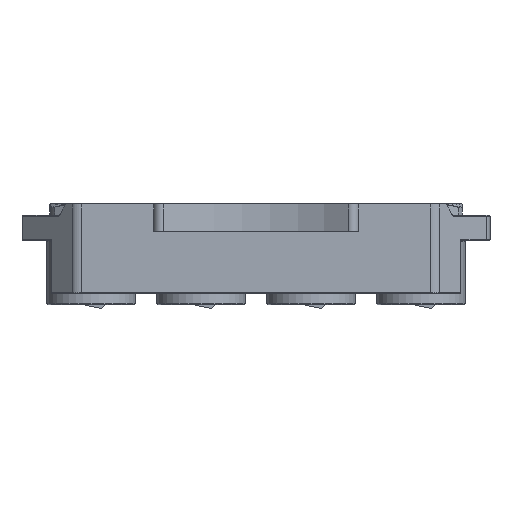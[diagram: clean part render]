
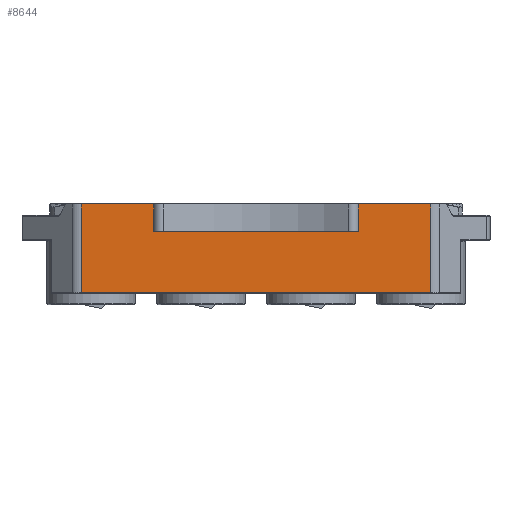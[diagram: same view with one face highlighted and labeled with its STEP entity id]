
A CAD part, front view. The second image highlights one B-rep face of the part: STEP entity #8644.
In plain terms, the highlighted planar face has unit normal (0, -1, 0).
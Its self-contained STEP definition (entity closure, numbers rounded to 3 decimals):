
#8644=ADVANCED_FACE('',(#10423),#9912,.T.);
#9912=PLANE('',#26747);
#10423=FACE_OUTER_BOUND('',#11636,.T.);
#11636=EDGE_LOOP('',(#13120,#13121,#13122,#13123,#13124,#13125,#13126,#13127,
#13128,#13129));
#13120=ORIENTED_EDGE('',*,*,#20943,.T.);
#13121=ORIENTED_EDGE('',*,*,#20944,.T.);
#13122=ORIENTED_EDGE('',*,*,#20945,.F.);
#13123=ORIENTED_EDGE('',*,*,#20946,.T.);
#13124=ORIENTED_EDGE('',*,*,#20947,.T.);
#13125=ORIENTED_EDGE('',*,*,#20948,.T.);
#13126=ORIENTED_EDGE('',*,*,#20949,.T.);
#13127=ORIENTED_EDGE('',*,*,#20950,.T.);
#13128=ORIENTED_EDGE('',*,*,#20951,.T.);
#13129=ORIENTED_EDGE('',*,*,#20952,.T.);
#19158=VERTEX_POINT('',#35858);
#19159=VERTEX_POINT('',#35859);
#19160=VERTEX_POINT('',#35861);
#19161=VERTEX_POINT('',#35863);
#19162=VERTEX_POINT('',#35865);
#19163=VERTEX_POINT('',#35867);
#19164=VERTEX_POINT('',#35869);
#19165=VERTEX_POINT('',#35871);
#19166=VERTEX_POINT('',#35873);
#19167=VERTEX_POINT('',#35875);
#20943=EDGE_CURVE('',#19158,#19159,#23949,.T.);
#20944=EDGE_CURVE('',#19159,#19160,#23950,.T.);
#20945=EDGE_CURVE('',#19161,#19160,#23951,.T.);
#20946=EDGE_CURVE('',#19161,#19162,#23952,.T.);
#20947=EDGE_CURVE('',#19162,#19163,#23953,.T.);
#20948=EDGE_CURVE('',#19163,#19164,#23954,.T.);
#20949=EDGE_CURVE('',#19164,#19165,#23955,.T.);
#20950=EDGE_CURVE('',#19165,#19166,#23956,.T.);
#20951=EDGE_CURVE('',#19166,#19167,#23957,.T.);
#20952=EDGE_CURVE('',#19167,#19158,#23958,.T.);
#23949=LINE('',#35857,#25377);
#23950=LINE('',#35860,#25378);
#23951=LINE('',#35862,#25379);
#23952=LINE('',#35864,#25380);
#23953=LINE('',#35866,#25381);
#23954=LINE('',#35868,#25382);
#23955=LINE('',#35870,#25383);
#23956=LINE('',#35872,#25384);
#23957=LINE('',#35874,#25385);
#23958=LINE('',#35876,#25386);
#25377=VECTOR('',#29396,1.);
#25378=VECTOR('',#29397,1.);
#25379=VECTOR('',#29398,1.);
#25380=VECTOR('',#29399,1.);
#25381=VECTOR('',#29400,1.);
#25382=VECTOR('',#29401,1.);
#25383=VECTOR('',#29402,1.);
#25384=VECTOR('',#29403,1.);
#25385=VECTOR('',#29404,1.);
#25386=VECTOR('',#29405,1.);
#26747=AXIS2_PLACEMENT_3D('',#35877,#29406,#29407);
#29396=DIRECTION('',(0.,0.,1.));
#29397=DIRECTION('',(-1.,0.,0.));
#29398=DIRECTION('',(0.,0.,1.));
#29399=DIRECTION('',(-0.707,0.,-0.707));
#29400=DIRECTION('',(-1.,0.,0.));
#29401=DIRECTION('',(-0.707,0.,0.707));
#29402=DIRECTION('',(0.,0.,1.));
#29403=DIRECTION('',(-1.,0.,0.));
#29404=DIRECTION('',(0.,0.,-1.));
#29405=DIRECTION('',(1.,0.,0.));
#29406=DIRECTION('',(0.,-1.,0.));
#29407=DIRECTION('',(0.,0.,1.));
#35857=CARTESIAN_POINT('',(81.015,-30.,0.));
#35858=CARTESIAN_POINT('',(81.015,-30.,-41.3));
#35859=CARTESIAN_POINT('',(81.015,-30.,-0.2));
#35860=CARTESIAN_POINT('',(-108.5,-30.,-0.2));
#35861=CARTESIAN_POINT('',(47.5,-30.,-0.2));
#35862=CARTESIAN_POINT('',(47.5,-30.,-13.));
#35863=CARTESIAN_POINT('',(47.5,-30.,-12.8));
#35864=CARTESIAN_POINT('',(47.5,-30.,-12.8));
#35865=CARTESIAN_POINT('',(47.3,-30.,-13.));
#35866=CARTESIAN_POINT('',(-47.5,-30.,-13.));
#35867=CARTESIAN_POINT('',(-47.3,-30.,-13.));
#35868=CARTESIAN_POINT('',(-47.5,-30.,-12.8));
#35869=CARTESIAN_POINT('',(-47.5,-30.,-12.8));
#35870=CARTESIAN_POINT('',(-47.5,-30.,-13.));
#35871=CARTESIAN_POINT('',(-47.5,-30.,-0.2));
#35872=CARTESIAN_POINT('',(-108.5,-30.,-0.2));
#35873=CARTESIAN_POINT('',(-81.015,-30.,-0.2));
#35874=CARTESIAN_POINT('',(-81.015,-30.,-41.6));
#35875=CARTESIAN_POINT('',(-81.015,-30.,-41.3));
#35876=CARTESIAN_POINT('',(81.015,-30.,-41.3));
#35877=CARTESIAN_POINT('',(-108.5,-30.,-41.6));
